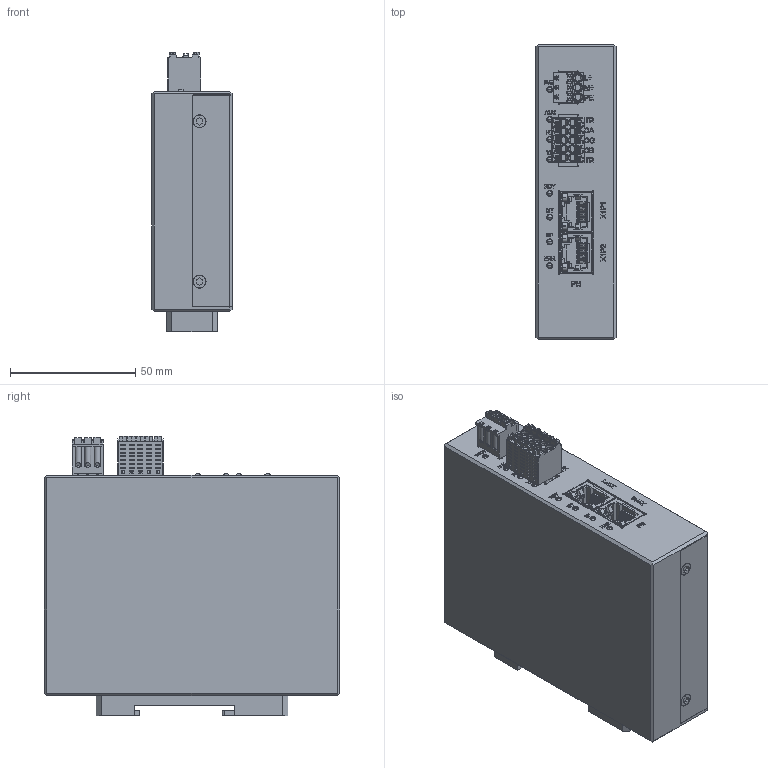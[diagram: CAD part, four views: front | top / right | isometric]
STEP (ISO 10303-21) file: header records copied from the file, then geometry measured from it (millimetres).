
FILE_DESCRIPTION((''),'2;1');
FILE_NAME('00_MATCHBOX_IO_ASM_31_ASM','2023-08-08T12:08:37',('Administrator'),('yulong DESIGN'),'CREO PARAMETRIC BY PTC INC, 2021023','CREO PARAMETRIC BY PTC INC, 2021023','');
FILE_SCHEMA(('AUTOMOTIVE_DESIGN { 1 0 10303 214 1 1 1 1 }'));
Products named in the file (17): LEFT_COVER_88; LIGHTPIPE_11_1; LIGHTPIPE_11_2; LIGHTPIPE_11_3; LIGHTPIPE_11_4; LIGHTPIPE_11_5; LIGHTPIPE_11_6; LIGHTPIPE_11_7; LIGHTPIPE_11_ASM; RIGHT_COVER_61; 50101280_SCREW_M3X5_2; PLUS_SCREW_M3X5_2; MJ5688-BX11-GRLX_1_1; DINKLE_ESC381V-03P; DINKLE_0181-A305; KOU; 00_MATCHBOX_IO_ASM_31_ASM
Assembly tree (22 placements, depth 3):
  00_MATCHBOX_IO_ASM_31_ASM
    LEFT_COVER_88
    LIGHTPIPE_11_ASM
      LIGHTPIPE_11_1
      LIGHTPIPE_11_2
      LIGHTPIPE_11_3
      LIGHTPIPE_11_4
      LIGHTPIPE_11_5
      LIGHTPIPE_11_6
      LIGHTPIPE_11_7
    RIGHT_COVER_61
    50101280_SCREW_M3X5_2  x2
    PLUS_SCREW_M3X5_2  x4
    MJ5688-BX11-GRLX_1_1  x2
    DINKLE_ESC381V-03P
    DINKLE_0181-A305
    LIGHTPIPE_11_1
    KOU
Bounding box: 32 x 118 x 111.54 mm (x, y, z)
Volume: 418502.7 mm3; surface area: 79921.8 mm2
Topology: 21 solids, 21 shells, 4643 faces, 12756 edges, 8286 vertices
Faces by surface type: plane 2649, cylinder 1145, extrusion 360, torus 178, bspline 144, cone 109, sphere 58
Entity records: 154127 total; most frequent: CARTESIAN_POINT 32209, ORIENTED_EDGE 18920, DIRECTION 16436, EDGE_CURVE 9460, PRESENTATION_STYLE_ASSIGNMENT 8285, STYLED_ITEM 8275, VECTOR 6498, VERTEX_POINT 6205
